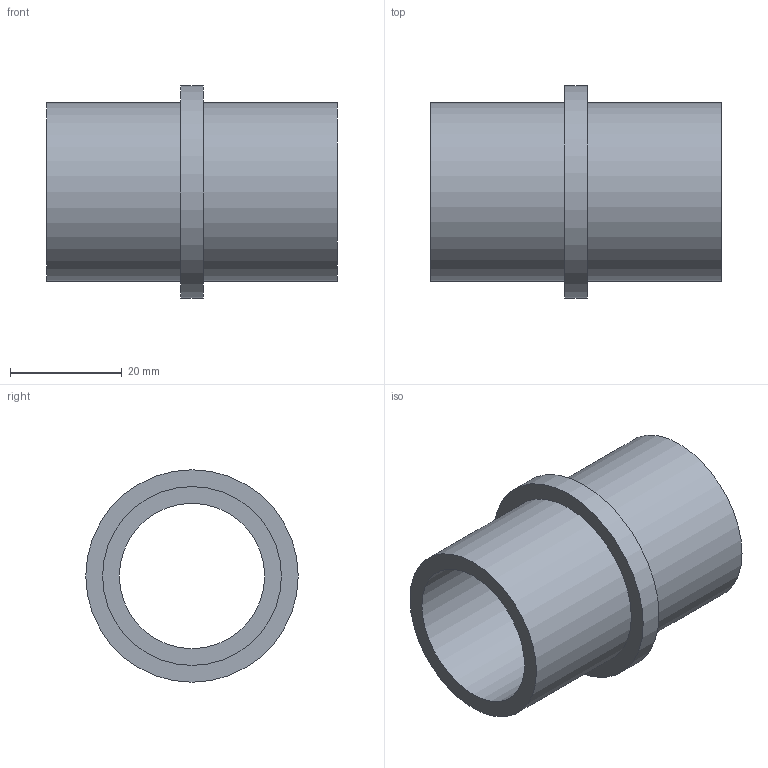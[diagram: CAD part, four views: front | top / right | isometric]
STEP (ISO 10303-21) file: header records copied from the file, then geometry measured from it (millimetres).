
FILE_DESCRIPTION(/* description */ (''),/* implementation_level */ '2;1');
FILE_NAME(/* name */ 'Z:\Geberit\Export\NewStep\Bundbüchse_Einzelteil\stp\379772.stp',/* time_stamp */ '2014-04-03T12:06:08+02:00',/* author */ ('nelson'),/* organization */ (''),/* preprocessor_version */ 'ST-DEVELOPER v15.2',/* originating_system */ 'Autodesk Inventor 2014',/* authorisation */ '');
FILE_SCHEMA (('AUTOMOTIVE_DESIGN { 1 0 10303 214 3 1 1 }'));
Length unit declared in the file: millimetre
Products named in the file (1): 379772
Bounding box: 52 x 38 x 38 mm (x, y, z)
Volume: 15532 mm3; surface area: 10756.8 mm2
Topology: 1 solids, 1 shells, 8 faces, 12 edges, 8 vertices
Faces by surface type: cylinder 4, plane 4
Full cylindrical faces by diameter (mm): 26 x1, 32 x2, 38 x1
Entity records: 190 total; most frequent: DIRECTION 34, CARTESIAN_POINT 25, AXIS2_PLACEMENT_3D 17, EDGE_LOOP 16, ORIENTED_EDGE 16, FACE_BOUND 10, CIRCLE 8, VERTEX_POINT 8
